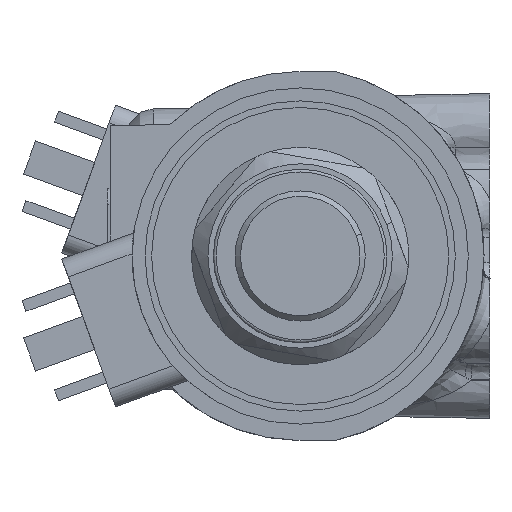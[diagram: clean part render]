
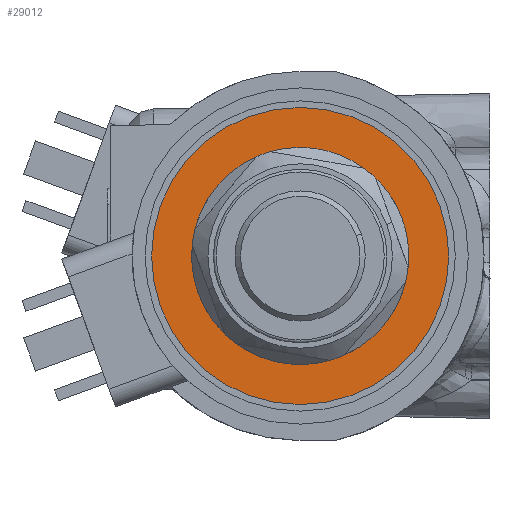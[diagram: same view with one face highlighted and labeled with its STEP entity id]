
A CAD part, left-side view. The second image highlights one B-rep face of the part: STEP entity #29012.
In plain terms, the highlighted planar face has unit normal (-1, 0, 0).
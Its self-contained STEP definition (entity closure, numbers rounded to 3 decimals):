
#9036=CARTESIAN_POINT('',(-124.5,0.,0.));
#9037=DIRECTION('',(-1.,0.,0.));
#9038=DIRECTION('',(0.,-0.94,0.342));
#9039=AXIS2_PLACEMENT_3D('',#9036,#9037,#9038);
#9049=CARTESIAN_POINT('',(-124.5,0.,0.));
#9050=DIRECTION('',(1.,0.,0.));
#9051=DIRECTION('',(0.,-0.94,0.342));
#9052=AXIS2_PLACEMENT_3D('',#9049,#9050,#9051);
#9054=CARTESIAN_POINT('',(-124.5,0.,0.));
#9055=DIRECTION('',(-1.,0.,0.));
#9056=DIRECTION('',(0.,-0.94,0.342));
#9057=AXIS2_PLACEMENT_3D('',#9054,#9055,#9056);
#9059=CARTESIAN_POINT('',(-124.5,0.,0.));
#9060=DIRECTION('',(1.,0.,0.));
#9061=DIRECTION('',(0.,-0.94,0.342));
#9062=AXIS2_PLACEMENT_3D('',#9059,#9060,#9061);
#12303=CARTESIAN_POINT('',(-124.5,-25.748,9.371));
#12305=VERTEX_POINT('',#12303);
#12325=CARTESIAN_POINT('',(-124.5,25.748,-9.371));
#12327=VERTEX_POINT('',#12325);
#12337=CARTESIAN_POINT('',(-124.5,-18.794,6.84));
#12338=CARTESIAN_POINT('',(-124.5,18.794,-6.84));
#12339=VERTEX_POINT('',#12337);
#12340=VERTEX_POINT('',#12338);
#28997=CARTESIAN_POINT('',(-124.5,0.,0.));
#28998=DIRECTION('',(-1.,0.,0.));
#28999=DIRECTION('',(0.,0.94,-0.342));
#29000=AXIS2_PLACEMENT_3D('',#28997,#28998,#28999);
#29001=PLANE('',#29000);
#29002=ORIENTED_EDGE('',*,*,#28992,.T.);
#29003=ORIENTED_EDGE('',*,*,#28976,.F.);
#29004=EDGE_LOOP('',(#29002,#29003));
#29005=FACE_OUTER_BOUND('',#29004,.F.);
#29007=ORIENTED_EDGE('',*,*,#29006,.T.);
#29009=ORIENTED_EDGE('',*,*,#29008,.F.);
#29010=EDGE_LOOP('',(#29007,#29009));
#29011=FACE_BOUND('',#29010,.F.);
#29012=ADVANCED_FACE('',(#29005,#29011),#29001,.T.);
#9040=CIRCLE('',#9039,27.4);
#9053=CIRCLE('',#9052,27.4);
#9058=CIRCLE('',#9057,20.);
#9063=CIRCLE('',#9062,20.);
#28976=EDGE_CURVE('',#12305,#12327,#9040,.T.);
#28992=EDGE_CURVE('',#12305,#12327,#9053,.T.);
#29006=EDGE_CURVE('',#12339,#12340,#9058,.T.);
#29008=EDGE_CURVE('',#12339,#12340,#9063,.T.);
